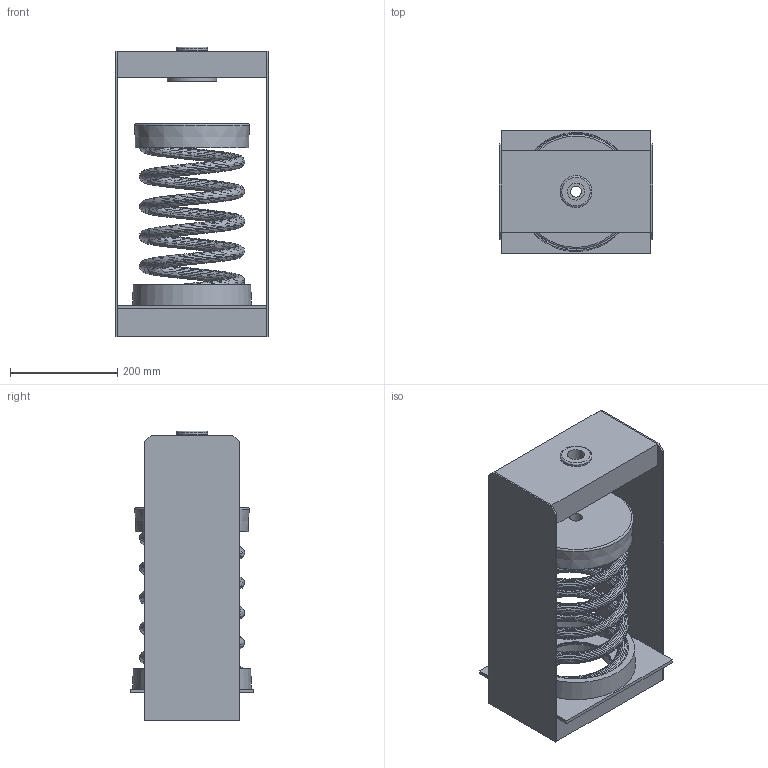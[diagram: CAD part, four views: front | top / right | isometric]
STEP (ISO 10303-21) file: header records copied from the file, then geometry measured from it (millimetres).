
FILE_DESCRIPTION(/* description */ (''),/* implementation_level */ '2;1');
FILE_NAME(/* name */ 'C:\001_Work\Designs\HANGER BOXES\30N 100 SERIES\30N-183-186\30N-186.stp',/* time_stamp */ '2015-06-16T12:26:25-04:00',/* author */ ('rramoutar'),/* organization */ ('Mason Industries Inc.'),/* preprocessor_version */ 'ST-DEVELOPER v15.6',/* originating_system */ 'Autodesk Inventor 2015',/* authorisation */ '');
FILE_SCHEMA (('AUTOMOTIVE_DESIGN { 1 0 10303 214 3 1 1 }'));
Length unit declared in the file: inch
Products named in the file (1): 30N-186
Bounding box: 285.75 x 228.6 x 541.02 mm (x, y, z)
Volume: 3302764 mm3; surface area: 1500173.1 mm2
Topology: 11 solids, 11 shells, 201 faces, 469 edges, 301 vertices
Faces by surface type: plane 131, cylinder 31, bspline 22, cone 15, torus 2
Full cylindrical faces by diameter (mm): 20.637 x1, 23.812 x1, 31.75 x2, 46.831 x1, 47.625 x1, 59.531 x1, 63.5 x1, 82.55 x1, 92.075 x1, 127 x1, 131.762 x1, 133.35 x2, 136.525 x3, 195.262 x1, 200.025 x2, 201.612 x1
Entity records: 21921 total; most frequent: CARTESIAN_POINT 17359, ORIENTED_EDGE 878, DIRECTION 798, EDGE_CURVE 439, VERTEX_POINT 297, AXIS2_PLACEMENT_3D 277, EDGE_LOOP 256, LINE 244
